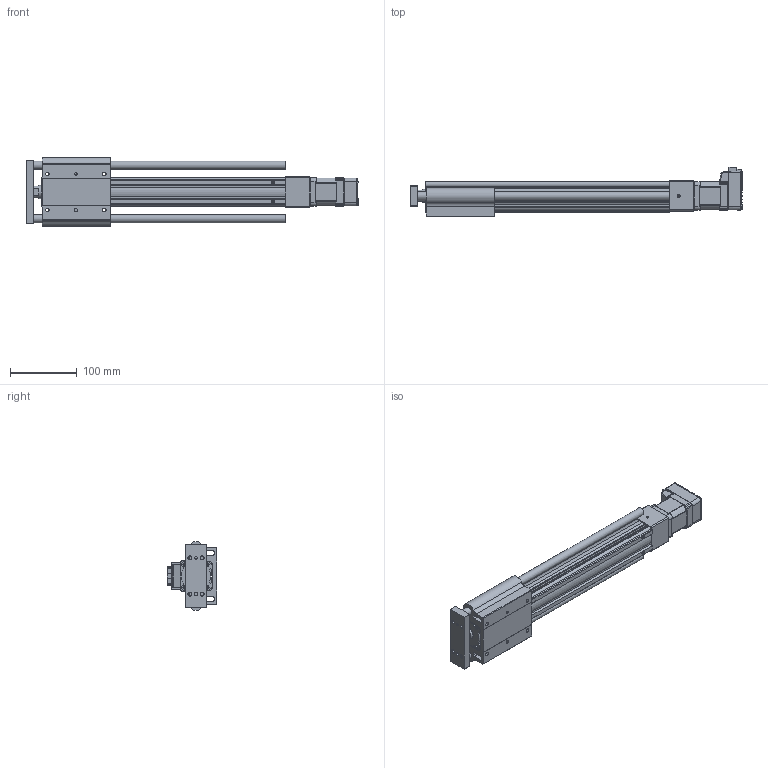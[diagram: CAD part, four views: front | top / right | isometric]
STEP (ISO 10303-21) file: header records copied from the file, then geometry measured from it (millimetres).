
FILE_DESCRIPTION (( 'STEP AP214' ), '1' );
FILE_NAME ('LEYG3(+)-25MDNM1□-250-17L.STEP', '2023-04-10T08:20:13', ( '' ), ( '' ), 'SwSTEP 2.0', 'SolidWorks 2019', '' );
FILE_SCHEMA (( 'AUTOMOTIVE_DESIGN' ));
Length unit declared in the file: millimetre
Products named in the file (6): LEYG3(+)-25□DNM1_MOTOR Flange; LEYG3(+)-25MNM1?_ROD_250; LEYG3(+)-25MDNM1□-250-17L; CM3(+)-17L50A; LEYG3(+)-25MNM1□_ATTACH_250; LEYG3(+)-25NM1?_BODY_250
Assembly tree (5 placements, depth 2):
  LEYG3(+)-25MDNM1□-250-17L
    LEYG3(+)-25NM1?_BODY_250
    LEYG3(+)-25MNM1?_ROD_250
    LEYG3(+)-25MNM1□_ATTACH_250
    LEYG3(+)-25□DNM1_MOTOR Flange
    CM3(+)-17L50A
Bounding box: 495.8 x 73.55 x 103 mm (x, y, z)
Volume: 1098031.5 mm3; surface area: 249111.4 mm2
Topology: 5 solids, 5 shells, 936 faces, 2384 edges, 1501 vertices
Faces by surface type: plane 499, cylinder 272, cone 86, bspline 29, torus 29, sphere 21
Full cylindrical faces by diameter (mm): 2.5 x4, 3.5 x4, 4 x2, 4.2 x2, 4.9 x4, 5 x1, 5.4 x4, 8 x1, 11 x1, 12 x2, 22 x1, 33 x1
Entity records: 37797 total; most frequent: CARTESIAN_POINT 6834, ORIENTED_EDGE 4612, DIRECTION 4473, EDGE_CURVE 2306, AXIS2_PLACEMENT_3D 1494, VERTEX_POINT 1490, LINE 1485, VECTOR 1485
